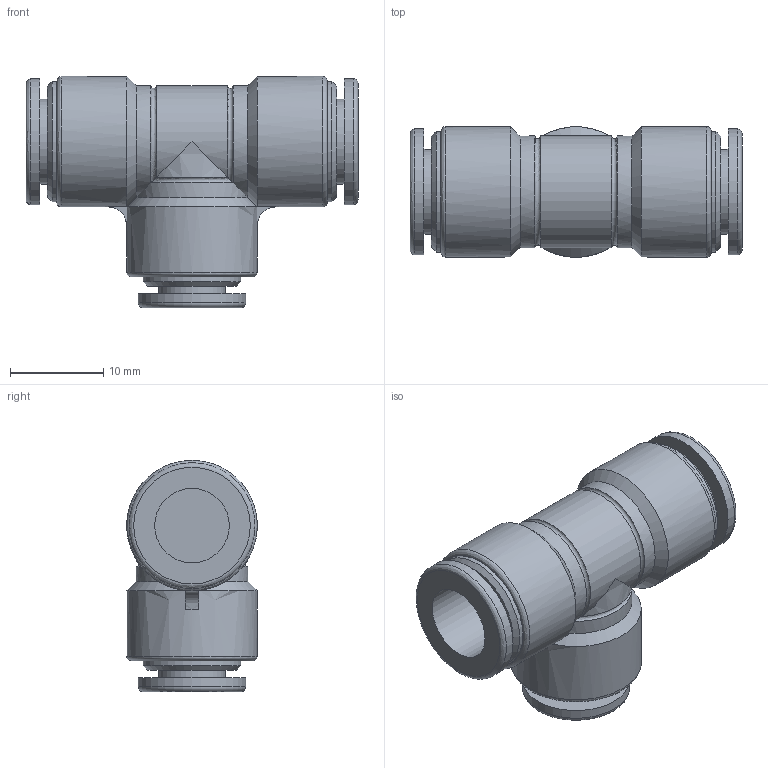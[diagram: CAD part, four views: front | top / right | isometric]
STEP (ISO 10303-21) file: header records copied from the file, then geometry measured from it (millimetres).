
FILE_DESCRIPTION((''),'2;1');
FILE_NAME('E:\2012年度板ﾃﾞｰﾀ\CHIYODA 3D-CAD DATA (Inventor 11)\TOUCH CONNECTOR FIVE (Inventor 11)\[18] DIFFERENT UNION TEE\[02] FR6-88UT FR6-88UTW.stp','2012-03-21T16:25:01',('kazuhiro.t'),(''),'Autodesk Inventor 11','Autodesk Inventor 11','');
FILE_SCHEMA(('AUTOMOTIVE_DESIGN { 1 0 10303 214 1 1 1 1 }'));
Length unit declared in the file: millimetre
Products named in the file (1): [02] FR6-88UT FR6-88UTW
Bounding box: 35.6 x 14 x 24.8 mm (x, y, z)
Volume: 4591.5 mm3; surface area: 3690.3 mm2
Topology: 1 solids, 1 shells, 68 faces, 145 edges, 91 vertices
Faces by surface type: bspline 38, plane 13, cylinder 10, torus 4, cone 3
Full cylindrical faces by diameter (mm): 7.1 x1, 9.1 x1, 10.5 x1, 11.5 x1, 12.9 x1, 13.5 x1, 14 x1
Entity records: 2351 total; most frequent: CARTESIAN_POINT 1069, ORIENTED_EDGE 240, DIRECTION 238, EDGE_CURVE 120, EDGE_LOOP 104, AXIS2_PLACEMENT_3D 103, VERTEX_POINT 90, FACE_OUTER_BOUND 68
